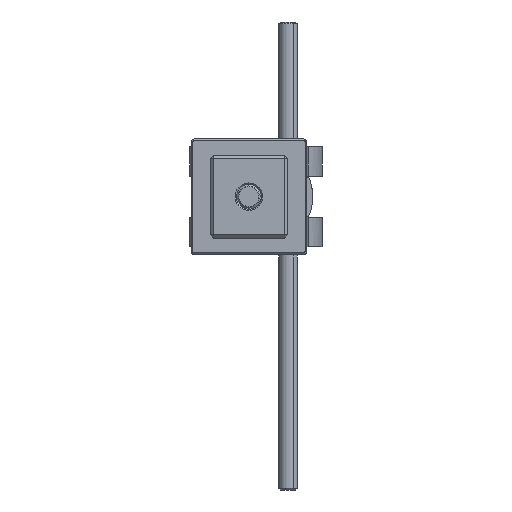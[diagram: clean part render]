
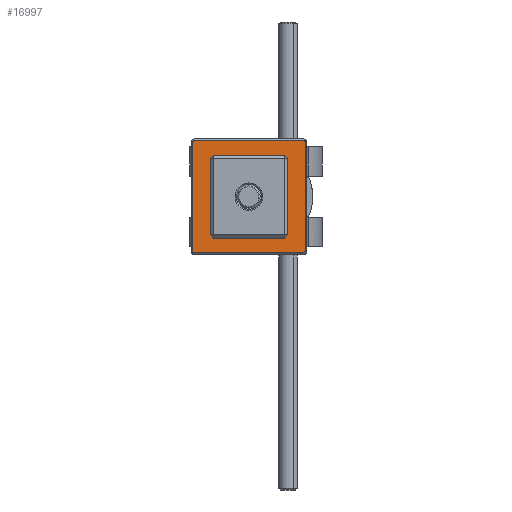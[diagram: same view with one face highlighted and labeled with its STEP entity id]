
A CAD part, left-side view. The second image highlights one B-rep face of the part: STEP entity #16997.
In plain terms, the highlighted planar face has unit normal (-1, 0, 0).
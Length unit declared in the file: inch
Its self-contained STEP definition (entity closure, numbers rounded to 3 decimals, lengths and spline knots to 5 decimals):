
#82 = EDGE_CURVE ( 'NONE', #19172, #21752, #4118, .T. ) ;
#96 = ORIENTED_EDGE ( 'NONE', *, *, #21290, .F. ) ;
#430 = VERTEX_POINT ( 'NONE', #9621 ) ;
#557 = VERTEX_POINT ( 'NONE', #17998 ) ;
#1350 = CARTESIAN_POINT ( 'NONE',  ( 0., 0.68898, -0.68898 ) ) ;
#1465 = CARTESIAN_POINT ( 'NONE',  ( 0., -0.68898, -0.68898 ) ) ;
#1530 = CARTESIAN_POINT ( 'NONE',  ( 0., 0.70866, -0.68898 ) ) ;
#1559 = DIRECTION ( 'NONE',  ( 0., 0., -1. ) ) ;
#1701 = DIRECTION ( 'NONE',  ( 0., 0., -1. ) ) ;
#2217 = EDGE_CURVE ( 'NONE', #21752, #10297, #8137, .T. ) ;
#2512 = EDGE_CURVE ( 'NONE', #14784, #557, #21640, .T. ) ;
#3119 = EDGE_CURVE ( 'NONE', #430, #14004, #20904, .T. ) ;
#3441 = DIRECTION ( 'NONE',  ( 1., 0., 0. ) ) ;
#3851 = DIRECTION ( 'NONE',  ( 1., 0., 0. ) ) ;
#4118 = CIRCLE ( 'NONE', #17501, 0.01969 ) ;
#4173 = CARTESIAN_POINT ( 'NONE',  ( 0., 0.16732, 0. ) ) ;
#4180 = CARTESIAN_POINT ( 'NONE',  ( 0., 0.72835, -0.70866 ) ) ;
#4188 = CARTESIAN_POINT ( 'NONE',  ( 0., -0.70866, -0.72835 ) ) ;
#4421 = LINE ( 'NONE', #4188, #5308 ) ;
#5308 = VECTOR ( 'NONE', #13366, 39.37008 ) ;
#5775 = EDGE_CURVE ( 'NONE', #12171, #18742, #17925, .T. ) ;
#5846 = DIRECTION ( 'NONE',  ( -1., 0., 0. ) ) ;
#6215 = ORIENTED_EDGE ( 'NONE', *, *, #15662, .T. ) ;
#6604 = DIRECTION ( 'NONE',  ( 0., -1., 0. ) ) ;
#7115 = CARTESIAN_POINT ( 'NONE',  ( 0., 0.72835, -0.72835 ) ) ;
#7265 = AXIS2_PLACEMENT_3D ( 'NONE', #1465, #3441, #1701 ) ;
#7326 = CARTESIAN_POINT ( 'NONE',  ( 0., -0.70866, -0.68898 ) ) ;
#8048 = ORIENTED_EDGE ( 'NONE', *, *, #8968, .T. ) ;
#8137 = LINE ( 'NONE', #15047, #22001 ) ;
#8330 = CARTESIAN_POINT ( 'NONE',  ( 0., 0., 0. ) ) ;
#8364 = CIRCLE ( 'NONE', #7265, 0.01969 ) ;
#8968 = EDGE_CURVE ( 'NONE', #17671, #557, #4421, .T. ) ;
#9079 = CARTESIAN_POINT ( 'NONE',  ( 0., 0., 0. ) ) ;
#9508 = CIRCLE ( 'NONE', #17326, 0.16732 ) ;
#9621 = CARTESIAN_POINT ( 'NONE',  ( 0., -0.16732, 0. ) ) ;
#10235 = CARTESIAN_POINT ( 'NONE',  ( 0., 0.72835, 0.70866 ) ) ;
#10297 = VERTEX_POINT ( 'NONE', #1530 ) ;
#10324 = CARTESIAN_POINT ( 'NONE',  ( 0., 0.68898, -0.70866 ) ) ;
#10414 = EDGE_LOOP ( 'NONE', ( #22622, #8048, #16319, #12873, #22394, #15793, #96, #20912 ) ) ;
#10494 = CARTESIAN_POINT ( 'NONE',  ( 0., 0.68898, 0.68898 ) ) ;
#10820 = DIRECTION ( 'NONE',  ( 1., 0., 0. ) ) ;
#10861 = CARTESIAN_POINT ( 'NONE',  ( 0., 0.70866, 0.68898 ) ) ;
#11087 = ORIENTED_EDGE ( 'NONE', *, *, #3119, .T. ) ;
#11415 = DIRECTION ( 'NONE',  ( 0., 0., -1. ) ) ;
#11468 = DIRECTION ( 'NONE',  ( 0., 0., -1. ) ) ;
#11571 = AXIS2_PLACEMENT_3D ( 'NONE', #19570, #3851, #12447 ) ;
#11619 = VECTOR ( 'NONE', #21426, 39.37008 ) ;
#11850 = EDGE_CURVE ( 'NONE', #14784, #19172, #15973, .T. ) ;
#12128 = DIRECTION ( 'NONE',  ( -1., 0., 0. ) ) ;
#12171 = VERTEX_POINT ( 'NONE', #10324 ) ;
#12224 = DIRECTION ( 'NONE',  ( 0., 1., 0. ) ) ;
#12408 = VECTOR ( 'NONE', #12224, 39.37008 ) ;
#12447 = DIRECTION ( 'NONE',  ( 0., 0., -1. ) ) ;
#12873 = ORIENTED_EDGE ( 'NONE', *, *, #11850, .T. ) ;
#13053 = CARTESIAN_POINT ( 'NONE',  ( 0., 0.68898, 0.70866 ) ) ;
#13266 = AXIS2_PLACEMENT_3D ( 'NONE', #7115, #5846, #17839 ) ;
#13366 = DIRECTION ( 'NONE',  ( 0., 0., 1. ) ) ;
#13680 = DIRECTION ( 'NONE',  ( 1., 0., 0. ) ) ;
#13827 = AXIS2_PLACEMENT_3D ( 'NONE', #8330, #15463, #6604 ) ;
#14004 = VERTEX_POINT ( 'NONE', #4173 ) ;
#14576 = DIRECTION ( 'NONE',  ( 0., -1., 0. ) ) ;
#14784 = VERTEX_POINT ( 'NONE', #22639 ) ;
#15047 = CARTESIAN_POINT ( 'NONE',  ( 0., 0.70866, -0.72835 ) ) ;
#15319 = CARTESIAN_POINT ( 'NONE',  ( 0., -0.68898, -0.70866 ) ) ;
#15463 = DIRECTION ( 'NONE',  ( 1., 0., 0. ) ) ;
#15662 = EDGE_CURVE ( 'NONE', #14004, #430, #9508, .T. ) ;
#15793 = ORIENTED_EDGE ( 'NONE', *, *, #2217, .T. ) ;
#15825 = AXIS2_PLACEMENT_3D ( 'NONE', #1350, #13680, #11468 ) ;
#15973 = LINE ( 'NONE', #10235, #12408 ) ;
#16103 = FACE_OUTER_BOUND ( 'NONE', #10414, .T. ) ;
#16319 = ORIENTED_EDGE ( 'NONE', *, *, #2512, .F. ) ;
#16997 = ADVANCED_FACE ( 'NONE', ( #19476, #16103 ), #21797, .T. ) ;
#17326 = AXIS2_PLACEMENT_3D ( 'NONE', #9079, #10820, #14576 ) ;
#17501 = AXIS2_PLACEMENT_3D ( 'NONE', #10494, #12128, #1559 ) ;
#17671 = VERTEX_POINT ( 'NONE', #7326 ) ;
#17839 = DIRECTION ( 'NONE',  ( 0., -1., 0. ) ) ;
#17925 = LINE ( 'NONE', #4180, #11619 ) ;
#17998 = CARTESIAN_POINT ( 'NONE',  ( 0., -0.70866, 0.68898 ) ) ;
#18742 = VERTEX_POINT ( 'NONE', #15319 ) ;
#19172 = VERTEX_POINT ( 'NONE', #13053 ) ;
#19476 = FACE_BOUND ( 'NONE', #20656, .T. ) ;
#19570 = CARTESIAN_POINT ( 'NONE',  ( 0., -0.68898, 0.68898 ) ) ;
#20656 = EDGE_LOOP ( 'NONE', ( #11087, #6215 ) ) ;
#20904 = CIRCLE ( 'NONE', #13827, 0.16732 ) ;
#20912 = ORIENTED_EDGE ( 'NONE', *, *, #5775, .T. ) ;
#21290 = EDGE_CURVE ( 'NONE', #12171, #10297, #21777, .T. ) ;
#21426 = DIRECTION ( 'NONE',  ( 0., -1., 0. ) ) ;
#21563 = EDGE_CURVE ( 'NONE', #17671, #18742, #8364, .T. ) ;
#21640 = CIRCLE ( 'NONE', #11571, 0.01969 ) ;
#21752 = VERTEX_POINT ( 'NONE', #10861 ) ;
#21777 = CIRCLE ( 'NONE', #15825, 0.01969 ) ;
#21797 = PLANE ( 'NONE',  #13266 ) ;
#22001 = VECTOR ( 'NONE', #11415, 39.37008 ) ;
#22394 = ORIENTED_EDGE ( 'NONE', *, *, #82, .T. ) ;
#22622 = ORIENTED_EDGE ( 'NONE', *, *, #21563, .F. ) ;
#22639 = CARTESIAN_POINT ( 'NONE',  ( 0., -0.68898, 0.70866 ) ) ;
